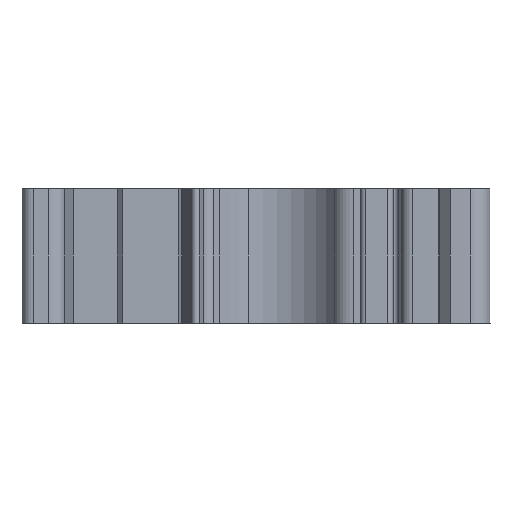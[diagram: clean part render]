
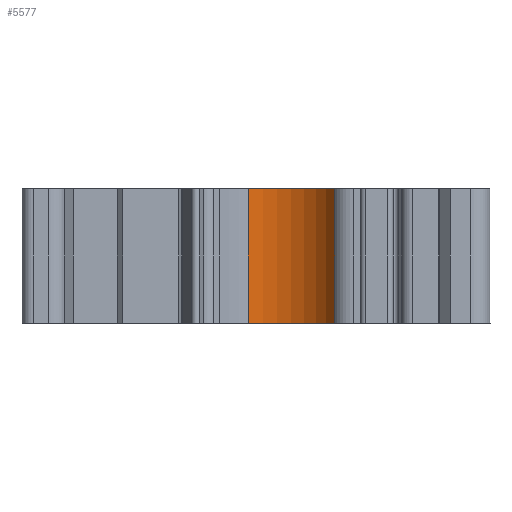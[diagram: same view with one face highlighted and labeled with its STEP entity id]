
A CAD part, front view. The second image highlights one B-rep face of the part: STEP entity #5577.
In plain terms, the highlighted cylindrical face has radius 7.697 mm (diameter 15.393 mm), a partial arc.
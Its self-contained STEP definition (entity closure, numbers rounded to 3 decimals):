
#546=CARTESIAN_POINT('',(0.625,-54.147,0.));
#547=DIRECTION('',(0.,0.,1.));
#548=DIRECTION('',(0.851,0.526,0.));
#549=AXIS2_PLACEMENT_3D('',#546,#547,#548);
#1003=CARTESIAN_POINT('',(0.625,-54.147,-12.2));
#1004=DIRECTION('',(0.,0.,-1.));
#1005=DIRECTION('',(-0.174,0.985,0.));
#1006=AXIS2_PLACEMENT_3D('',#1003,#1004,#1005);
#1909=DIRECTION('',(0.,0.,-1.));
#1910=VECTOR('',#1909,12.2);
#1911=CARTESIAN_POINT('',(7.172,-50.101,0.));
#1912=LINE('',#1911,#1910);
#1913=DIRECTION('',(0.,0.,-1.));
#1914=VECTOR('',#1913,12.2);
#1915=CARTESIAN_POINT('',(-0.713,-46.567,0.));
#1916=LINE('',#1915,#1914);
#2859=CARTESIAN_POINT('',(7.172,-50.101,0.));
#2860=VERTEX_POINT('',#2859);
#2861=CARTESIAN_POINT('',(-0.713,-46.567,0.));
#2862=VERTEX_POINT('',#2861);
#3207=CARTESIAN_POINT('',(-0.713,-46.567,-12.2));
#3208=VERTEX_POINT('',#3207);
#3209=CARTESIAN_POINT('',(7.172,-50.101,-12.2));
#3210=VERTEX_POINT('',#3209);
#5565=CARTESIAN_POINT('',(0.625,-54.147,0.));
#5566=DIRECTION('',(0.,0.,1.));
#5567=DIRECTION('',(1.,0.,0.));
#5568=AXIS2_PLACEMENT_3D('',#5565,#5566,#5567);
#5569=CYLINDRICAL_SURFACE('',#5568,7.697);
#5570=ORIENTED_EDGE('',*,*,#3832,.F.);
#5571=ORIENTED_EDGE('',*,*,#5560,.T.);
#5572=ORIENTED_EDGE('',*,*,#4123,.F.);
#5574=ORIENTED_EDGE('',*,*,#5573,.F.);
#5575=EDGE_LOOP('',(#5570,#5571,#5572,#5574));
#5576=FACE_OUTER_BOUND('',#5575,.F.);
#5577=ADVANCED_FACE('',(#5576),#5569,.F.);
#550=CIRCLE('',#549,7.697);
#1007=CIRCLE('',#1006,7.697);
#3832=EDGE_CURVE('',#2860,#2862,#550,.T.);
#4123=EDGE_CURVE('',#3208,#3210,#1007,.T.);
#5560=EDGE_CURVE('',#2860,#3210,#1912,.T.);
#5573=EDGE_CURVE('',#2862,#3208,#1916,.T.);
